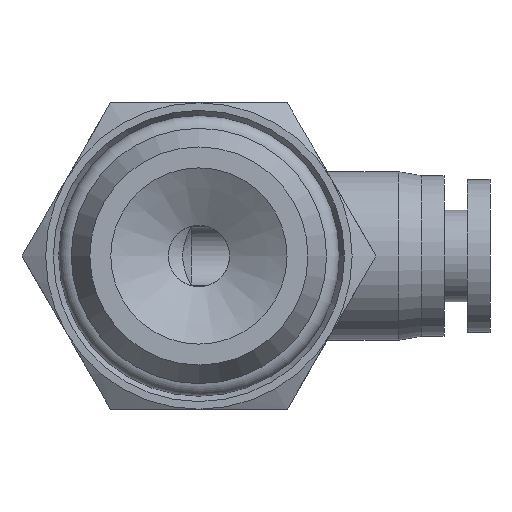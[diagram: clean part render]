
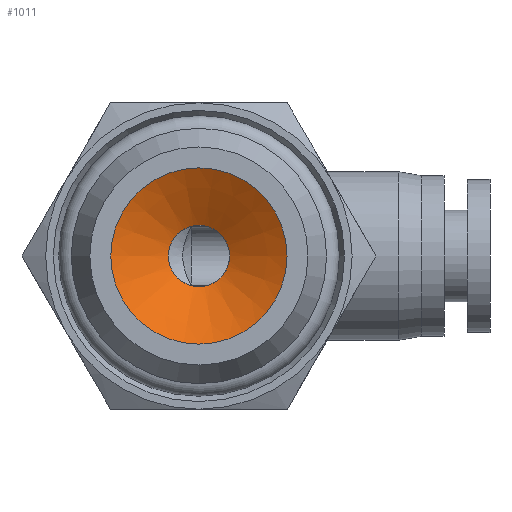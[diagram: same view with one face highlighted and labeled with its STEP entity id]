
A CAD part, front view. The second image highlights one B-rep face of the part: STEP entity #1011.
In plain terms, the highlighted conical face has half-angle 60 degrees and reference radius 3.875 mm.
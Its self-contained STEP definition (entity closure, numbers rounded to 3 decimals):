
#69=CIRCLE('',#1075,2.);
#70=CIRCLE('',#1076,2.);
#111=CIRCLE('',#1156,5.75);
#112=CIRCLE('',#1157,5.75);
#158=CONICAL_SURFACE('',#1155,3.875,1.047);
#209=FACE_OUTER_BOUND('',#276,.T.);
#276=EDGE_LOOP('',(#866,#867,#868,#869,#870,#871));
#317=LINE('',#1866,#348);
#348=VECTOR('',#1437,3.875);
#413=VERTEX_POINT('',#1633);
#414=VERTEX_POINT('',#1635);
#464=VERTEX_POINT('',#1865);
#465=VERTEX_POINT('',#1867);
#522=EDGE_CURVE('',#414,#413,#69,.T.);
#523=EDGE_CURVE('',#413,#414,#70,.T.);
#606=EDGE_CURVE('',#413,#464,#317,.T.);
#607=EDGE_CURVE('',#465,#464,#111,.T.);
#608=EDGE_CURVE('',#464,#465,#112,.T.);
#866=ORIENTED_EDGE('',*,*,#522,.T.);
#867=ORIENTED_EDGE('',*,*,#606,.T.);
#868=ORIENTED_EDGE('',*,*,#607,.F.);
#869=ORIENTED_EDGE('',*,*,#608,.F.);
#870=ORIENTED_EDGE('',*,*,#606,.F.);
#871=ORIENTED_EDGE('',*,*,#523,.T.);
#1011=ADVANCED_FACE('',(#209),#158,.F.);
#1075=AXIS2_PLACEMENT_3D('',#1636,#1261,#1262);
#1076=AXIS2_PLACEMENT_3D('',#1637,#1263,#1264);
#1155=AXIS2_PLACEMENT_3D('',#1864,#1435,#1436);
#1156=AXIS2_PLACEMENT_3D('',#1868,#1438,#1439);
#1157=AXIS2_PLACEMENT_3D('',#1869,#1440,#1441);
#1261=DIRECTION('center_axis',(0.,1.,0.));
#1262=DIRECTION('ref_axis',(1.,0.,0.));
#1263=DIRECTION('center_axis',(0.,1.,0.));
#1264=DIRECTION('ref_axis',(1.,0.,0.));
#1435=DIRECTION('center_axis',(0.,-1.,0.));
#1436=DIRECTION('ref_axis',(-1.,0.,0.));
#1437=DIRECTION('',(0.866,-0.5,0.));
#1438=DIRECTION('center_axis',(0.,1.,0.));
#1439=DIRECTION('ref_axis',(1.,0.,0.));
#1440=DIRECTION('center_axis',(0.,1.,0.));
#1441=DIRECTION('ref_axis',(1.,0.,0.));
#1633=CARTESIAN_POINT('',(2.,-11.335,0.));
#1635=CARTESIAN_POINT('',(-2.,-11.335,0.));
#1636=CARTESIAN_POINT('Origin',(0.,-11.335,0.));
#1637=CARTESIAN_POINT('Origin',(0.,-11.335,0.));
#1864=CARTESIAN_POINT('Origin',(0.,-12.417,0.));
#1865=CARTESIAN_POINT('',(5.75,-13.5,0.));
#1866=CARTESIAN_POINT('',(3.875,-12.417,0.));
#1867=CARTESIAN_POINT('',(-5.75,-13.5,0.));
#1868=CARTESIAN_POINT('Origin',(0.,-13.5,0.));
#1869=CARTESIAN_POINT('Origin',(0.,-13.5,0.));
